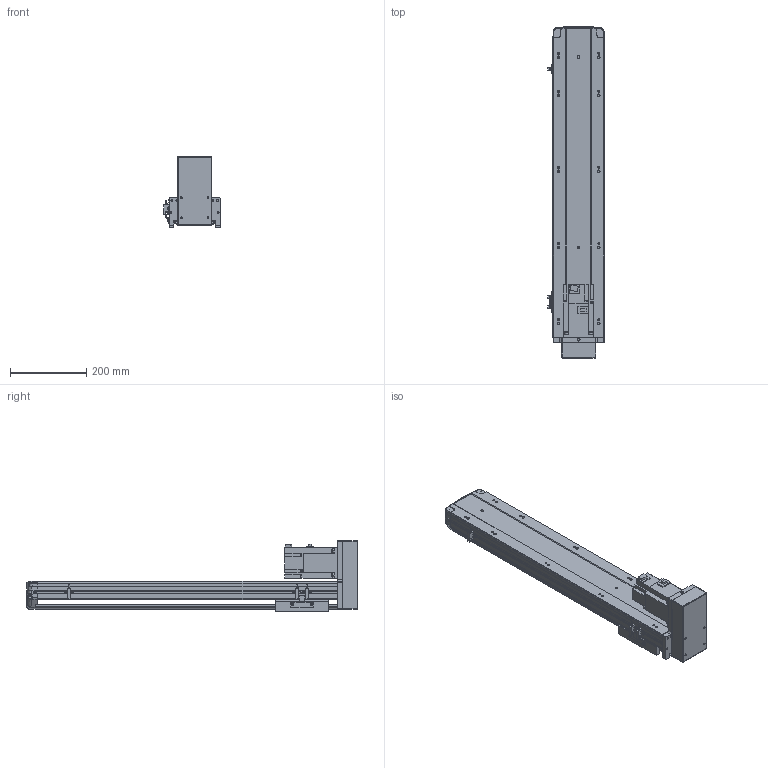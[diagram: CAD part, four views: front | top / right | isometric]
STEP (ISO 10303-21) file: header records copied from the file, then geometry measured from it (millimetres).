
FILE_DESCRIPTION (( 'STEP AP203' ), '1' );
FILE_NAME ('12.STEP', '2020-11-09T00:23:25', ( '' ), ( '' ), 'SwSTEP 2.0', 'SolidWorks 2016', '' );
FILE_SCHEMA (( 'CONFIG_CONTROL_DESIGN' ));
Length unit declared in the file: millimetre
Products named in the file (8): 12; BTH14-BM-01; BTH14-11-BM-T75; BTH14-BM-T75; BTH14-06-BM-T75; BTH14-BM-HZ; BTH14-BL-BM-BR-菁釱; BTH14-BM-04
Assembly tree (9 placements, depth 2):
  12
    BTH14-BL-BM-BR-菁釱
    BTH14-BM-01
    BTH14-BM-04  x3
    BTH14-BM-HZ
    BTH14-06-BM-T75
    BTH14-11-BM-T75
    BTH14-BM-T75
Bounding box: 148.7 x 873.02 x 184.5 mm (x, y, z)
Volume: 4273290.2 mm3; surface area: 946370.6 mm2
Topology: 13 solids, 13 shells, 1606 faces, 4361 edges, 2795 vertices
Faces by surface type: plane 843, cylinder 426, bspline 214, cone 95, torus 28
Entity records: 57238 total; most frequent: CARTESIAN_POINT 22477, ORIENTED_EDGE 7534, DIRECTION 6323, EDGE_CURVE 3767, VERTEX_POINT 2435, VECTOR 2113, LINE 2113, AXIS2_PLACEMENT_3D 2105
